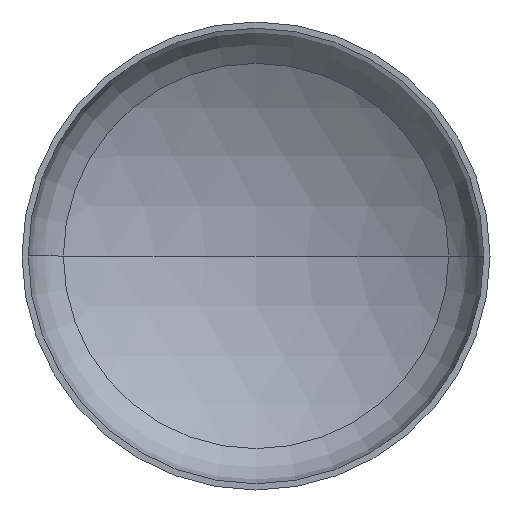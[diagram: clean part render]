
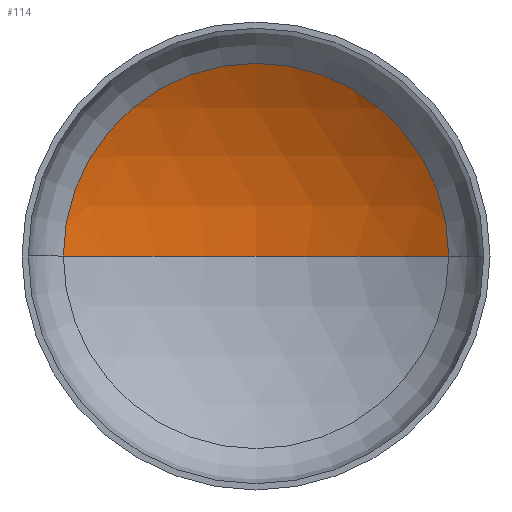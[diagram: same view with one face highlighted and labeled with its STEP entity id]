
A CAD part, front view. The second image highlights one B-rep face of the part: STEP entity #114.
In plain terms, the highlighted spherical face has radius 3600 mm.
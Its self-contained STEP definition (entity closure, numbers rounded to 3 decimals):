
#4 = AXIS2_PLACEMENT_3D ( 'NONE', #289, #293, #72 ) ;
#13 = AXIS2_PLACEMENT_3D ( 'NONE', #345, #321, #277 ) ;
#28 = AXIS2_PLACEMENT_3D ( 'NONE', #65, #166, #201 ) ;
#65 = CARTESIAN_POINT ( 'NONE',  ( 0., -2370.783, 0. ) ) ;
#72 = DIRECTION ( 'NONE',  ( 1., 0., 0. ) ) ;
#74 = CARTESIAN_POINT ( 'NONE',  ( 0., -2370.783, 0. ) ) ;
#104 = ORIENTED_EDGE ( 'NONE', *, *, #363, .F. ) ;
#114 = ADVANCED_FACE ( 'NONE', ( #132 ), #213, .F. ) ;
#132 = FACE_OUTER_BOUND ( 'NONE', #206, .T. ) ;
#166 = DIRECTION ( 'NONE',  ( 0., 0., -1. ) ) ;
#175 = ORIENTED_EDGE ( 'NONE', *, *, #311, .T. ) ;
#181 = VERTEX_POINT ( 'NONE', #378 ) ;
#186 = ORIENTED_EDGE ( 'NONE', *, *, #367, .T. ) ;
#188 = DIRECTION ( 'NONE',  ( 0., 0., -1. ) ) ;
#201 = DIRECTION ( 'NONE',  ( -1., 0., 0. ) ) ;
#206 = EDGE_LOOP ( 'NONE', ( #104, #186, #175 ) ) ;
#213 = SPHERICAL_SURFACE ( 'NONE', #28, 3600. ) ;
#218 = CARTESIAN_POINT ( 'NONE',  ( 0., 1229.217, 0. ) ) ;
#225 = CIRCLE ( 'NONE', #4, 3600. ) ;
#239 = VERTEX_POINT ( 'NONE', #246 ) ;
#246 = CARTESIAN_POINT ( 'NONE',  ( 1852.668, 715.902, 0. ) ) ;
#247 = AXIS2_PLACEMENT_3D ( 'NONE', #74, #188, #401 ) ;
#254 = VERTEX_POINT ( 'NONE', #218 ) ;
#277 = DIRECTION ( 'NONE',  ( 1., 0., 0. ) ) ;
#289 = CARTESIAN_POINT ( 'NONE',  ( 0., -2370.783, 0. ) ) ;
#293 = DIRECTION ( 'NONE',  ( 0., 0., 1. ) ) ;
#311 = EDGE_CURVE ( 'NONE', #239, #181, #403, .T. ) ;
#321 = DIRECTION ( 'NONE',  ( 0., -1., 0. ) ) ;
#345 = CARTESIAN_POINT ( 'NONE',  ( 0., 715.902, 0. ) ) ;
#363 = EDGE_CURVE ( 'NONE', #254, #181, #225, .T. ) ;
#367 = EDGE_CURVE ( 'NONE', #254, #239, #384, .T. ) ;
#378 = CARTESIAN_POINT ( 'NONE',  ( -1852.668, 715.902, 0. ) ) ;
#384 = CIRCLE ( 'NONE', #247, 3600. ) ;
#401 = DIRECTION ( 'NONE',  ( -1., 0., 0. ) ) ;
#403 = CIRCLE ( 'NONE', #13, 1852.668 ) ;
